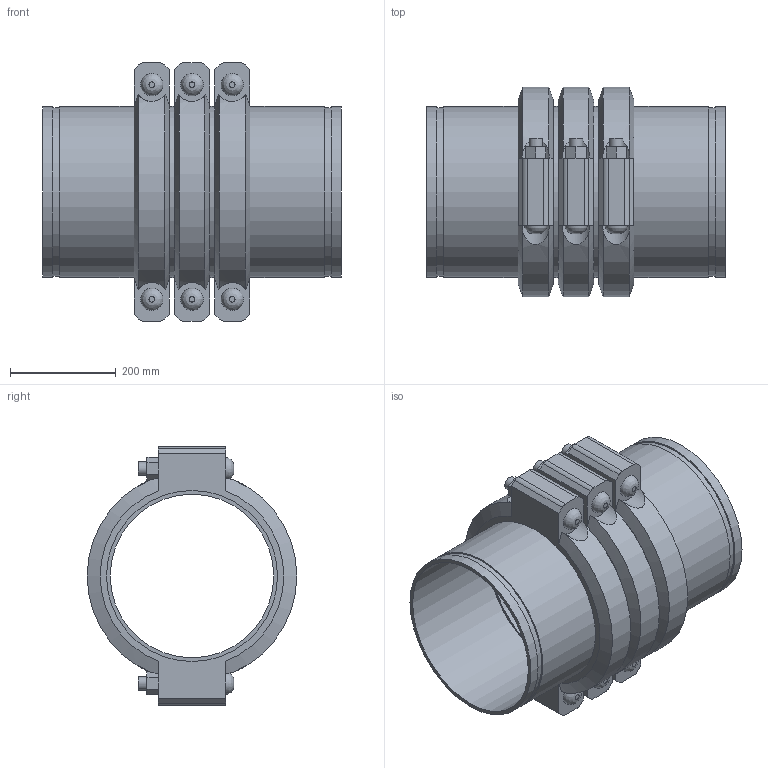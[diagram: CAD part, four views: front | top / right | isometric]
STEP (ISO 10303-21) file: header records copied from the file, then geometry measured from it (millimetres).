
FILE_DESCRIPTION(/* description */ ('VIC EXPANSION JOINT 3 COUPLINGS EXPANDED STYLE 155 (OGS)','CAx-IF Rec.Pracs.---Representation and Presentation of Product Manufacturing Information (PMI)---4.0---2014-10-13'),/* implementation_level */ '2;1');
FILE_NAME(/* name */ 'C:\Users\kkamble\AppData\Roaming\Autodesk\ApplicationPlugins\Victaulic.Temp\A258\Victaulic_IPS_Expansion Joint_Expanded_3 Couplings_Style 155 (OGS)_12 (300).stp',/* time_stamp */ '2021-06-26T23:59:05+02:00',/* author */ ('kkamble'),/* organization */ ('Victaulic'),/* preprocessor_version */ 'ST-DEVELOPER v17.2',/* originating_system */ 'Autodesk Inventor 2019',/* authorisation */ '');
FILE_SCHEMA (('AP242_MANAGED_MODEL_BASED_3D_ENGINEERING_MIM_LF { 1 0 10303 442 1 1 4 }'));
Length unit declared in the file: inch
Products named in the file (4): 155-12.0; Nipple-12.0; Nipple-12.0_1; 077-12.0
Assembly tree (7 placements, depth 2):
  155-12.0
    Nipple-12.0  x2
    Nipple-12.0_1  x2
    077-12.0  x3
Bounding box: 565.15 x 397 x 488.95 mm (x, y, z)
Volume: 13868919.2 mm3; surface area: 2164722.2 mm2
Topology: 7 solids, 13 shells, 231 faces, 555 edges, 390 vertices
Faces by surface type: plane 132, cylinder 81, cone 12, bspline 6
Full cylindrical faces by diameter (mm): 25.4 x12, 27.432 x6, 309.677 x4, 314.96 x3, 318.287 x8, 323.85 x18
Entity records: 3025 total; most frequent: CARTESIAN_POINT 655, DIRECTION 469, ORIENTED_EDGE 410, EDGE_CURVE 205, AXIS2_PLACEMENT_3D 190, VERTEX_POINT 146, EDGE_LOOP 111, CIRCLE 96
